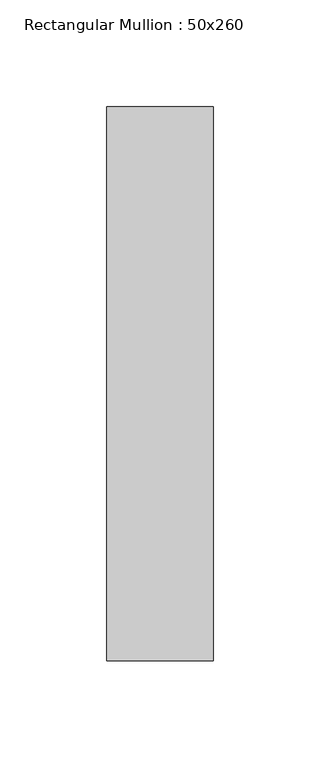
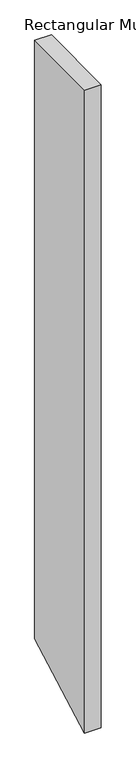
"""IFC4 building model written with IfcOpenShell, lengths in millimetres: member geometry, Rectangular Mullion : 50x260."""

from ifc_helpers import new_model, si_unit, frame, origin, place, context, project, spatial, polyline, outline, extrude, source, transform, mapped, element, save


def rectangular_mullion_50x260_104b6bf4(model_context):
    return source(origin(), model_context, "Body", "SweptSolid", [
        extrude(outline(polyline([(-130.0, 0.0), (130.0, 0.0), (130.0, -1902.2170564), (-130.0, -2043.5706408), (-130.0, 0.0)])), frame((-50.0, 0.0, 0.0), z_axis=(1.0, 0.0, 0.0), x_axis=(0.0, 1.0, 0.0)), (0.0, 0.0, 1.0), 50.0),
    ])


if __name__ == "__main__":
    model = new_model("IFC4")
    model_context = context("Model", 3, world=origin())
    ifc_project = project(units=[si_unit("LENGTHUNIT", "METRE", prefix="MILLI")], contexts=[model_context])
    site = spatial("IfcSite", under=ifc_project)
    building = spatial("IfcBuilding", under=site)
    placement = place(None, origin())
    rectangular_mullion_50x260_shape = rectangular_mullion_50x260_104b6bf4(model_context)
    element("IfcMember", 1, ObjectType="Rectangular Mullion : 50x260", at=placement, inside=building, context=model_context, shape_type="MappedRepresentation", body=[
        mapped(rectangular_mullion_50x260_shape, transform((0.0, 0.0, 0.0), x_axis=(1.0, 0.0, 0.0), y_axis=(0.0, 1.0, 0.0), z_axis=(0.0, 0.0, 1.0))),
    ])
    save(model, "model.ifc")
